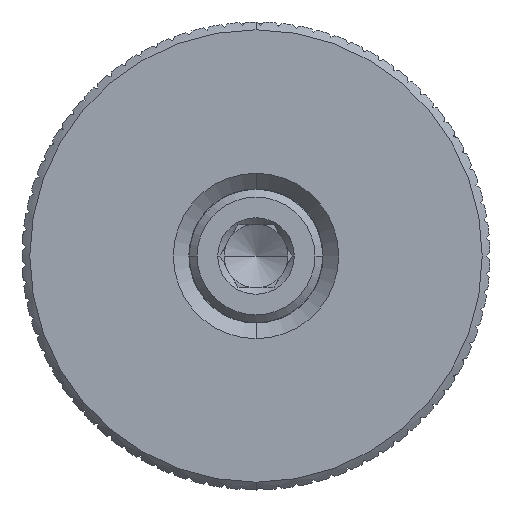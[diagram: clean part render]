
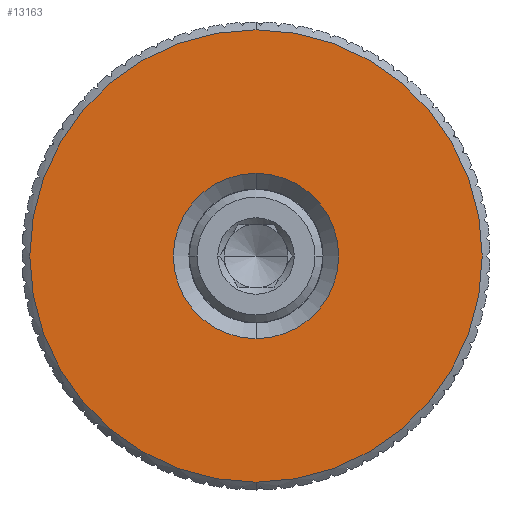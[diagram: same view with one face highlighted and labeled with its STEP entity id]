
A CAD part, left-side view. The second image highlights one B-rep face of the part: STEP entity #13163.
In plain terms, the highlighted planar face has unit normal (-1, 0, 0).
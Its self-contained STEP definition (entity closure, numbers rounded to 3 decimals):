
#417 = CARTESIAN_POINT ( 'NONE',  ( -31.25, 0., 0. ) ) ;
#683 = EDGE_CURVE ( 'NONE', #40596, #38115, #10977, .T. ) ;
#866 = DIRECTION ( 'NONE',  ( 0., 0., -1. ) ) ;
#2109 = CARTESIAN_POINT ( 'NONE',  ( -31.25, 0., 0. ) ) ;
#2636 = ORIENTED_EDGE ( 'NONE', *, *, #683, .T. ) ;
#2971 = EDGE_CURVE ( 'NONE', #38115, #40596, #3481, .T. ) ;
#3318 = DIRECTION ( 'NONE',  ( 1., 0., 0. ) ) ;
#3481 = CIRCLE ( 'NONE', #31934, 5.3 ) ;
#3604 = DIRECTION ( 'NONE',  ( 0., 0., -1. ) ) ;
#5286 = DIRECTION ( 'NONE',  ( 0., 0., -1. ) ) ;
#6277 = FACE_OUTER_BOUND ( 'NONE', #19475, .T. ) ;
#7166 = EDGE_LOOP ( 'NONE', ( #25605, #2636 ) ) ;
#10836 = CARTESIAN_POINT ( 'NONE',  ( -31.25, 5.3, 0. ) ) ;
#10977 = CIRCLE ( 'NONE', #36823, 5.3 ) ;
#11569 = ORIENTED_EDGE ( 'NONE', *, *, #31786, .T. ) ;
#12538 = AXIS2_PLACEMENT_3D ( 'NONE', #37140, #18175, #40320 ) ;
#13163 = ADVANCED_FACE ( 'NONE', ( #6277, #14746 ), #26505, .F. ) ;
#13626 = EDGE_CURVE ( 'NONE', #17639, #22807, #21590, .T. ) ;
#14002 = DIRECTION ( 'NONE',  ( 0., 0., -1. ) ) ;
#14746 = FACE_BOUND ( 'NONE', #7166, .T. ) ;
#17639 = VERTEX_POINT ( 'NONE', #40816 ) ;
#18175 = DIRECTION ( 'NONE',  ( -1., 0., 0. ) ) ;
#19475 = EDGE_LOOP ( 'NONE', ( #11569, #33431 ) ) ;
#21590 = CIRCLE ( 'NONE', #33864, 14.5 ) ;
#21826 = CARTESIAN_POINT ( 'NONE',  ( -31.25, 0., 0. ) ) ;
#22636 = DIRECTION ( 'NONE',  ( -1., 0., 0. ) ) ;
#22807 = VERTEX_POINT ( 'NONE', #22960 ) ;
#22960 = CARTESIAN_POINT ( 'NONE',  ( -31.25, 0., -14.5 ) ) ;
#23501 = AXIS2_PLACEMENT_3D ( 'NONE', #10836, #33002, #14002 ) ;
#24340 = DIRECTION ( 'NONE',  ( 1., 0., 0. ) ) ;
#25605 = ORIENTED_EDGE ( 'NONE', *, *, #2971, .T. ) ;
#26505 = PLANE ( 'NONE',  #23501 ) ;
#31028 = CARTESIAN_POINT ( 'NONE',  ( -31.25, 0., -5.3 ) ) ;
#31786 = EDGE_CURVE ( 'NONE', #22807, #17639, #40682, .T. ) ;
#31934 = AXIS2_PLACEMENT_3D ( 'NONE', #2109, #24340, #5286 ) ;
#32178 = CARTESIAN_POINT ( 'NONE',  ( -31.25, 0., 5.3 ) ) ;
#33002 = DIRECTION ( 'NONE',  ( 1., 0., 0. ) ) ;
#33431 = ORIENTED_EDGE ( 'NONE', *, *, #13626, .T. ) ;
#33864 = AXIS2_PLACEMENT_3D ( 'NONE', #417, #22636, #3604 ) ;
#36823 = AXIS2_PLACEMENT_3D ( 'NONE', #21826, #3318, #866 ) ;
#37140 = CARTESIAN_POINT ( 'NONE',  ( -31.25, 0., 0. ) ) ;
#38115 = VERTEX_POINT ( 'NONE', #32178 ) ;
#40320 = DIRECTION ( 'NONE',  ( 0., 0., -1. ) ) ;
#40596 = VERTEX_POINT ( 'NONE', #31028 ) ;
#40682 = CIRCLE ( 'NONE', #12538, 14.5 ) ;
#40816 = CARTESIAN_POINT ( 'NONE',  ( -31.25, 0., 14.5 ) ) ;
